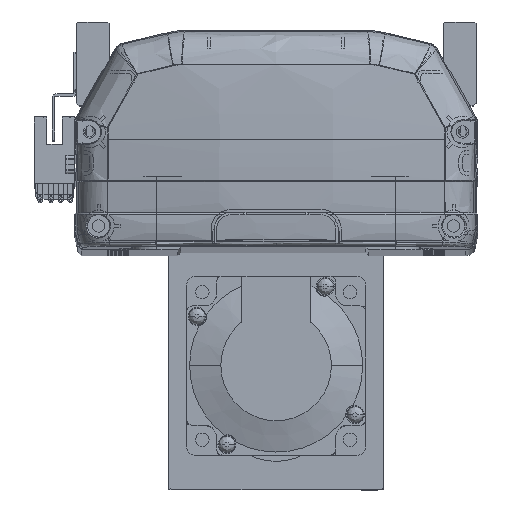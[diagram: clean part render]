
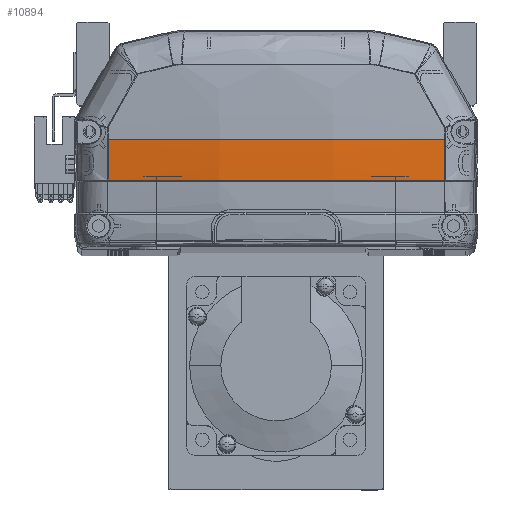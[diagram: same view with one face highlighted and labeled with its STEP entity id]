
A CAD part, top view. The second image highlights one B-rep face of the part: STEP entity #10894.
In plain terms, the highlighted free-form (B-spline) face has degree [3, 3] with [4, 4] control points.
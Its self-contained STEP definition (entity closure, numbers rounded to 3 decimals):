
#338 = CARTESIAN_POINT ( 'NONE',  ( -56.647, 31.405, -5.158 ) ) ;
#537 = CARTESIAN_POINT ( 'NONE',  ( -56.661, 22.225, -4.818 ) ) ;
#828 = CARTESIAN_POINT ( 'NONE',  ( -57.335, 26.762, -4.928 ) ) ;
#1220 = CARTESIAN_POINT ( 'NONE',  ( 19.295, 36., -11.535 ) ) ;
#1596 = CARTESIAN_POINT ( 'NONE',  ( -19.295, 36., -11.535 ) ) ;
#1867 = CARTESIAN_POINT ( 'NONE',  ( 56.661, 22.225, -4.818 ) ) ;
#1879 = CARTESIAN_POINT ( 'NONE',  ( -56.661, 22.225, -4.818 ) ) ;
#2068 = CARTESIAN_POINT ( 'NONE',  ( 11.954, 22.225, -9.367 ) ) ;
#2446 = CARTESIAN_POINT ( 'NONE',  ( 38.071, 22.225, -7.566 ) ) ;
#3357 = ORIENTED_EDGE ( 'NONE', *, *, #19345, .F. ) ;
#4644 = CARTESIAN_POINT ( 'NONE',  ( -56.652, 26.814, -5.045 ) ) ;
#5061 = CARTESIAN_POINT ( 'NONE',  ( 6452.613, 35.969, -5.158 ) ) ;
#5081 = VERTEX_POINT ( 'NONE', #12969 ) ;
#5397 = CARTESIAN_POINT ( 'NONE',  ( -56.647, 36., -5.158 ) ) ;
#5819 =( BOUNDED_SURFACE ( )  B_SPLINE_SURFACE ( 3, 3, ( 
 ( #32947, #14745, #19425, #23942 ),
 ( #23761, #37230, #27673, #1220 ),
 ( #41733, #45456, #55325, #1596 ),
 ( #50189, #828, #36859, #9848 ) ),
 .UNSPECIFIED., .F., .F., .F. ) 
 B_SPLINE_SURFACE_WITH_KNOTS ( ( 4, 4 ),
 ( 4, 4 ),
 ( 0., 1. ),
 ( 0., 1. ),
 .UNSPECIFIED. ) 
 GEOMETRIC_REPRESENTATION_ITEM ( )  RATIONAL_B_SPLINE_SURFACE ( (
 ( 1., 1., 1., 1.),
 ( 0.99, 0.99, 0.99, 0.99),
 ( 0.99, 0.99, 0.99, 0.99),
 ( 1., 1., 1., 1.) ) ) 
 REPRESENTATION_ITEM ( '' )  SURFACE ( )  );
#6026 = VERTEX_POINT ( 'NONE', #25592 ) ;
#6509 = B_SPLINE_CURVE_WITH_KNOTS ( 'NONE', 3,
 ( #1867, #10865, #42190, #6557 ),
 .UNSPECIFIED., .F., .F.,
 ( 4, 4 ),
 ( 0., 1. ),
 .UNSPECIFIED. ) ;
#6557 = CARTESIAN_POINT ( 'NONE',  ( 56.647, 35.969, -5.158 ) ) ;
#7404 = EDGE_CURVE ( 'NONE', #6026, #52770, #46123, .T. ) ;
#8353 = CIRCLE ( 'NONE', #19278, 6395.966 ) ;
#9848 = CARTESIAN_POINT ( 'NONE',  ( -57.335, 36., -5.042 ) ) ;
#10865 = CARTESIAN_POINT ( 'NONE',  ( 56.652, 26.806, -5.044 ) ) ;
#10894 = ADVANCED_FACE ( 'NONE', ( #21344 ), #5819, .T. ) ;
#11648 = CARTESIAN_POINT ( 'NONE',  ( 56.661, 22.225, -4.818 ) ) ;
#12969 = CARTESIAN_POINT ( 'NONE',  ( 56.647, 36., -5.158 ) ) ;
#13072 = ORIENTED_EDGE ( 'NONE', *, *, #7404, .F. ) ;
#14745 = CARTESIAN_POINT ( 'NONE',  ( 57.335, 26.762, -4.928 ) ) ;
#15318 = EDGE_LOOP ( 'NONE', ( #38812, #3357, #33419, #16349, #13072 ) ) ;
#15520 = CARTESIAN_POINT ( 'NONE',  ( 56.661, 22.225, -4.818 ) ) ;
#16164 = CARTESIAN_POINT ( 'NONE',  ( 2.357, 22.225, -9.562 ) ) ;
#16349 = ORIENTED_EDGE ( 'NONE', *, *, #39638, .T. ) ;
#18392 = CIRCLE ( 'NONE', #34499, 340.733 ) ;
#19278 = AXIS2_PLACEMENT_3D ( 'NONE', #5061, #54466, #36420 ) ;
#19345 = EDGE_CURVE ( 'NONE', #21628, #5081, #8353, .T. ) ;
#19425 = CARTESIAN_POINT ( 'NONE',  ( 57.335, 31.38, -5.042 ) ) ;
#19877 = CARTESIAN_POINT ( 'NONE',  ( -38.235, 22.225, -7.93 ) ) ;
#21344 = FACE_OUTER_BOUND ( 'NONE', #15318, .T. ) ;
#21628 = VERTEX_POINT ( 'NONE', #31025 ) ;
#21812 = B_SPLINE_CURVE_WITH_KNOTS ( 'NONE', 3,
 ( #11648, #56361, #2446, #34000, #38097, #2068, #55575, #42973, #16164, #51055, #42390, #19877, #1879 ),
 .UNSPECIFIED., .F., .F.,
 ( 4, 2, 2, 1, 2, 2, 4 ),
 ( 0., 0.25, 0.375, 0.438, 0.469, 0.5, 1. ),
 .UNSPECIFIED. ) ;
#23047 = DIRECTION ( 'NONE',  ( 0., 1., 0. ) ) ;
#23761 = CARTESIAN_POINT ( 'NONE',  ( 19.295, 21.828, -11.186 ) ) ;
#23942 = CARTESIAN_POINT ( 'NONE',  ( 57.335, 36., -5.042 ) ) ;
#25592 = CARTESIAN_POINT ( 'NONE',  ( -56.647, 36., -5.158 ) ) ;
#27649 = VERTEX_POINT ( 'NONE', #15520 ) ;
#27673 = CARTESIAN_POINT ( 'NONE',  ( 19.295, 31.274, -11.535 ) ) ;
#31025 = CARTESIAN_POINT ( 'NONE',  ( 56.647, 35.969, -5.158 ) ) ;
#31638 = DIRECTION ( 'NONE',  ( 0., 0., -1. ) ) ;
#32947 = CARTESIAN_POINT ( 'NONE',  ( 57.335, 22.148, -4.7 ) ) ;
#33419 = ORIENTED_EDGE ( 'NONE', *, *, #54352, .F. ) ;
#34000 = CARTESIAN_POINT ( 'NONE',  ( 23.877, 22.225, -8.763 ) ) ;
#34499 = AXIS2_PLACEMENT_3D ( 'NONE', #49861, #23047, #31638 ) ;
#35093 = EDGE_CURVE ( 'NONE', #5081, #6026, #18392, .T. ) ;
#36420 = DIRECTION ( 'NONE',  ( -1., 0., 0. ) ) ;
#36859 = CARTESIAN_POINT ( 'NONE',  ( -57.335, 31.38, -5.042 ) ) ;
#37230 = CARTESIAN_POINT ( 'NONE',  ( 19.295, 26.549, -11.419 ) ) ;
#38097 = CARTESIAN_POINT ( 'NONE',  ( 19.121, 22.225, -9.064 ) ) ;
#38812 = ORIENTED_EDGE ( 'NONE', *, *, #35093, .F. ) ;
#39638 = EDGE_CURVE ( 'NONE', #27649, #52770, #21812, .T. ) ;
#39840 = CARTESIAN_POINT ( 'NONE',  ( -56.661, 22.225, -4.818 ) ) ;
#41733 = CARTESIAN_POINT ( 'NONE',  ( -19.295, 21.828, -11.186 ) ) ;
#42190 = CARTESIAN_POINT ( 'NONE',  ( 56.647, 31.387, -5.158 ) ) ;
#42390 = CARTESIAN_POINT ( 'NONE',  ( -19.28, 22.225, -9.565 ) ) ;
#42973 = CARTESIAN_POINT ( 'NONE',  ( 4.761, 22.225, -9.537 ) ) ;
#45456 = CARTESIAN_POINT ( 'NONE',  ( -19.295, 26.549, -11.419 ) ) ;
#46123 = B_SPLINE_CURVE_WITH_KNOTS ( 'NONE', 3,
 ( #5397, #338, #4644, #537 ),
 .UNSPECIFIED., .F., .F.,
 ( 4, 4 ),
 ( 0., 1. ),
 .UNSPECIFIED. ) ;
#49861 = CARTESIAN_POINT ( 'NONE',  ( 0., 36., 330.833 ) ) ;
#50189 = CARTESIAN_POINT ( 'NONE',  ( -57.335, 22.148, -4.7 ) ) ;
#51055 = CARTESIAN_POINT ( 'NONE',  ( 1.152, 22.225, -9.568 ) ) ;
#52770 = VERTEX_POINT ( 'NONE', #39840 ) ;
#54352 = EDGE_CURVE ( 'NONE', #27649, #21628, #6509, .T. ) ;
#54466 = DIRECTION ( 'NONE',  ( 0., 0., -1. ) ) ;
#55325 = CARTESIAN_POINT ( 'NONE',  ( -19.295, 31.274, -11.535 ) ) ;
#55575 = CARTESIAN_POINT ( 'NONE',  ( 8.363, 22.225, -9.48 ) ) ;
#56361 = CARTESIAN_POINT ( 'NONE',  ( 47.432, 22.225, -6.377 ) ) ;
